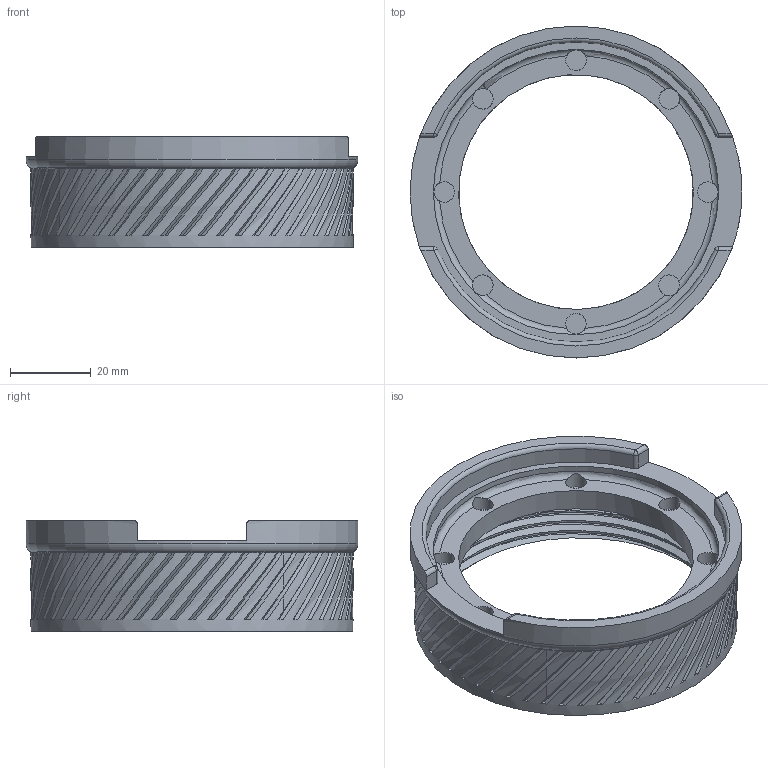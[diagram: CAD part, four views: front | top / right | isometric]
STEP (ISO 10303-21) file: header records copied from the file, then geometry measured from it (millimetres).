
FILE_DESCRIPTION(/* description */ ('STEP AP242','CAx-IF Rec.Pracs.---Representation and Presentation of Product Manufacturing Information (PMI)---4.0---2014-10-13','CAx-IF Rec.Pracs.---3D Tessellated Geometry---0.4---2014-09-14','2;1'),/* implementation_level */ '2;1');
FILE_NAME(/* name */ '646929b7cac4670533c21ce7',/* time_stamp */ '2023-05-20T20:12:39Z',/* author */ (''),/* organization */ (''),/* preprocessor_version */ 'ST-DEVELOPER v19.4',/* originating_system */ ' ',/* authorisation */ ' ');
FILE_SCHEMA (('AP242_MANAGED_MODEL_BASED_3D_ENGINEERING_MIM_LF { 1 0 10303 442 1 1 4 }'));
Length unit declared in the file: metre
Products named in the file (1): Base 25mm Magnet Lug
Bounding box: 82 x 82 x 27.4 mm (x, y, z)
Volume: 34192.6 mm3; surface area: 19332.9 mm2
Topology: 1 solids, 1 shells, 320 faces, 829 edges, 510 vertices
Faces by surface type: bspline 144, plane 138, cylinder 26, torus 4, cone 4, sphere 4
Full cylindrical faces by diameter (mm): 5.1 x8, 58 x1, 70.5 x1, 79.6 x1, 82 x1
Entity records: 16098 total; most frequent: CARTESIAN_POINT 10074, ORIENTED_EDGE 1570, DIRECTION 863, EDGE_CURVE 785, VERTEX_POINT 489, AXIS2_PLACEMENT_3D 397, EDGE_LOOP 338, FACE_BOUND 338
